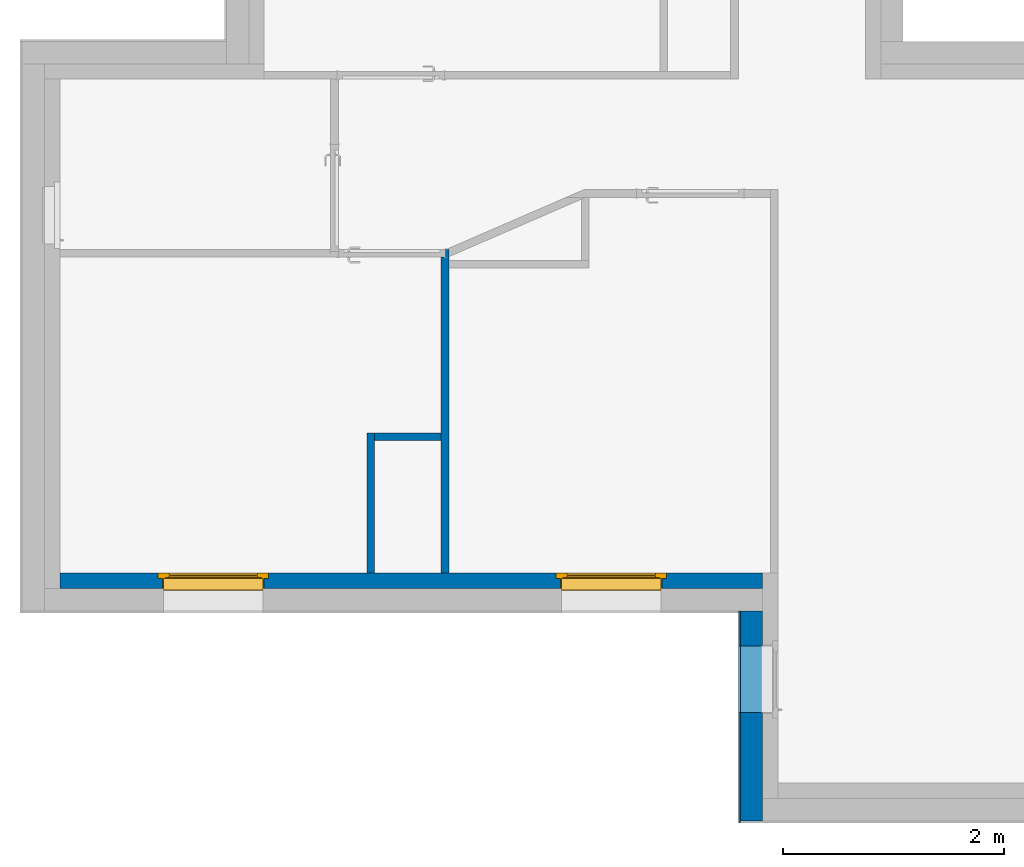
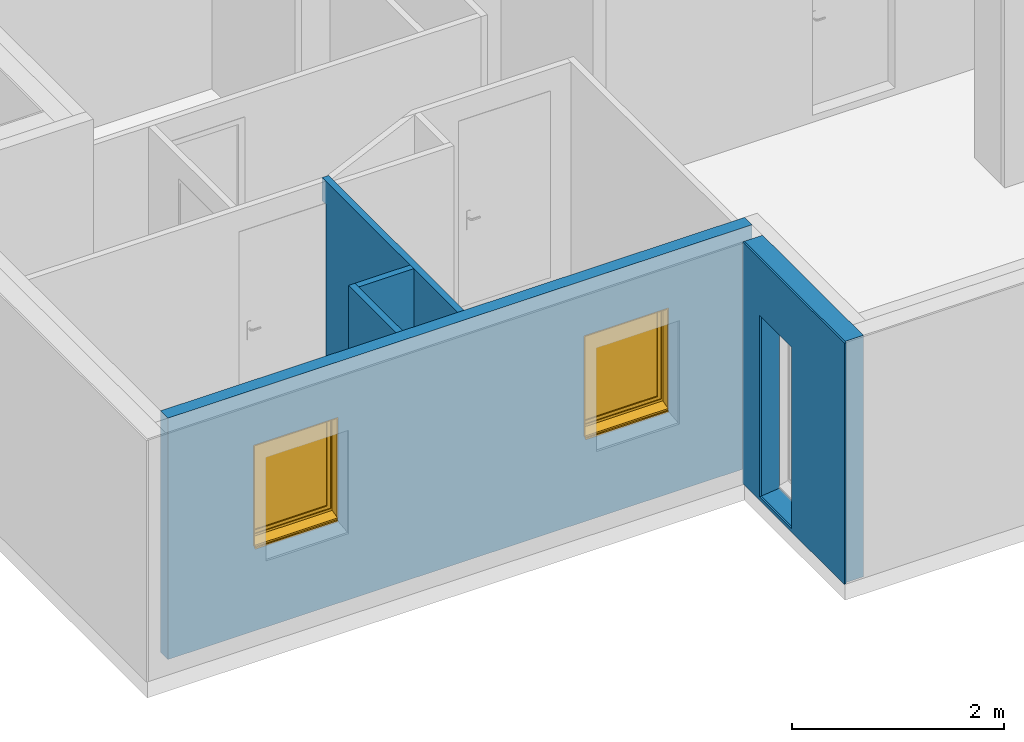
"""IFC2X3 building model written with IfcOpenShell, lengths in centimetres."""

from ifc_helpers import new_model, entity, si_unit, converted_unit, derived_unit, direction, frame, frame_2d, origin, place, context, subcontext, project, spatial, rectangle, extrude, faceted_brep, source, transform, mapped, material, material_list, layer, layer_set, layer_usage, type_object, type_shapes, element, fill, save


model = new_model("IFC2X3")

# Units and contexts
model_context = context("Model", 3, precision=0.001, world=origin(), true_north=direction((6.123031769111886e-17, 1.0)))
body_context = subcontext(model_context, "Body", "Model", "MODEL_VIEW")
ifc_project = project(units=[si_unit("LENGTHUNIT", "METRE", prefix="CENTI"), si_unit("AREAUNIT", "SQUARE_METRE"), si_unit("VOLUMEUNIT", "CUBIC_METRE"), converted_unit("PLANEANGLEUNIT", "DEGREE", entity("IfcRatioMeasure", 0.017453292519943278), si_unit("PLANEANGLEUNIT", "RADIAN"), dimensions=[0, 0, 0, 0, 0, 0, 0]), si_unit("MASSUNIT", "GRAM", prefix="KILO"), derived_unit("MASSDENSITYUNIT", [(si_unit("MASSUNIT", "GRAM", prefix="KILO"), 1), (si_unit("LENGTHUNIT", "METRE"), -3)]), derived_unit("MOMENTOFINERTIAUNIT", [(si_unit("LENGTHUNIT", "METRE"), 4)]), si_unit("TIMEUNIT", "SECOND"), si_unit("FREQUENCYUNIT", "HERTZ"), si_unit("THERMODYNAMICTEMPERATUREUNIT", "DEGREE_CELSIUS"), derived_unit("THERMALTRANSMITTANCEUNIT", [(si_unit("MASSUNIT", "GRAM", prefix="KILO"), 1), (si_unit("THERMODYNAMICTEMPERATUREUNIT", "KELVIN"), -1), (si_unit("TIMEUNIT", "SECOND"), -3)]), derived_unit("VOLUMETRICFLOWRATEUNIT", [(si_unit("LENGTHUNIT", "METRE"), 3), (si_unit("TIMEUNIT", "SECOND"), -1)]), derived_unit("MASSFLOWRATEUNIT", [(si_unit("MASSUNIT", "GRAM", prefix="KILO"), 1), (si_unit("TIMEUNIT", "SECOND"), -1)]), derived_unit("ROTATIONALFREQUENCYUNIT", [(si_unit("TIMEUNIT", "SECOND"), -1)]), si_unit("ELECTRICCURRENTUNIT", "AMPERE"), si_unit("ELECTRICVOLTAGEUNIT", "VOLT"), si_unit("POWERUNIT", "WATT"), si_unit("FORCEUNIT", "NEWTON", prefix="KILO"), si_unit("ILLUMINANCEUNIT", "LUX"), si_unit("LUMINOUSFLUXUNIT", "LUMEN"), si_unit("LUMINOUSINTENSITYUNIT", "CANDELA"), derived_unit("USERDEFINED", [(si_unit("MASSUNIT", "GRAM", prefix="KILO"), -1), (si_unit("LENGTHUNIT", "METRE"), -2), (si_unit("TIMEUNIT", "SECOND"), 3), (si_unit("LUMINOUSFLUXUNIT", "LUMEN"), 1)]), derived_unit("SOUNDPOWERUNIT", [(si_unit("MASSUNIT", "GRAM", prefix="KILO"), 1), (si_unit("LENGTHUNIT", "METRE"), 2), (si_unit("TIMEUNIT", "SECOND"), -3)]), derived_unit("SOUNDPRESSUREUNIT", [(si_unit("MASSUNIT", "GRAM", prefix="KILO"), 1), (si_unit("LENGTHUNIT", "METRE"), -1), (si_unit("TIMEUNIT", "SECOND"), -2)]), derived_unit("LINEARVELOCITYUNIT", [(si_unit("LENGTHUNIT", "METRE"), 1), (si_unit("TIMEUNIT", "SECOND"), -1)]), si_unit("PRESSUREUNIT", "PASCAL"), derived_unit("USERDEFINED", [(si_unit("LENGTHUNIT", "METRE"), -2), (si_unit("MASSUNIT", "GRAM", prefix="KILO"), 1), (si_unit("TIMEUNIT", "SECOND"), -2)]), derived_unit("LINEARFORCEUNIT", [(si_unit("MASSUNIT", "GRAM", prefix="KILO"), 1), (si_unit("LENGTHUNIT", "METRE"), 1), (si_unit("TIMEUNIT", "SECOND"), -2), (si_unit("LENGTHUNIT", "METRE"), -1)]), derived_unit("PLANARFORCEUNIT", [(si_unit("MASSUNIT", "GRAM", prefix="KILO"), 1), (si_unit("LENGTHUNIT", "METRE"), 1), (si_unit("TIMEUNIT", "SECOND"), -2), (si_unit("LENGTHUNIT", "METRE"), -2)])], contexts=[model_context])

# Site, building, storey
site_placement = place(None, origin())
site = spatial("IfcSite", under=ifc_project, at=site_placement, Name="Default", CompositionType="ELEMENT")
building_placement = place(site_placement, origin())
building = spatial("IfcBuilding", under=site, at=building_placement, CompositionType="ELEMENT")
storey_1_placement = place(building_placement, frame((0.0, 0.0, -8.0)))
storey_1 = spatial("IfcBuildingStorey", under=building, at=storey_1_placement, Name="-0.08_Dessus plancher", CompositionType="ELEMENT", Elevation=-8.000000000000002)

# Wall, opening
ifc_material_1 = material(Name="Maçonnerie - Béton")
ifc_layer_1 = layer(ifc_material_1, 20.0)
ifc_layer_set_1 = layer_set([ifc_layer_1], Name="Mur de base:Mur 20")
ifc_layer_usage_1 = layer_usage(ifc_layer_set_1, "AXIS2", "POSITIVE", -10.0)
wall_type_1 = type_object("IfcWallType", Name="Mur de base:Mur 20", PredefinedType="STANDARD", material=ifc_layer_set_1)
wall_1_placement = place(storey_1_placement, frame((-971.8253630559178, 85.60429608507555, 0.0), z_axis=(0.0, 0.0, 1.0), x_axis=(0.0, -1.0, 0.0)))
wall_1 = element("IfcWallStandardCase", 1, at=wall_1_placement, inside=storey_1, type_object=wall_type_1, material=ifc_layer_usage_1, Name="Mur de base:Mur 20", ObjectType="Mur de base:Mur 20", context=body_context, shape_type="SweptSolid", body=[
    extrude(rectangle(XDim=190.00000000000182, YDim=19.999999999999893, at=frame_2d((95.00000000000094, 5.417888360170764e-14), x_axis=(-1.0, 0.0))), origin(), (0.0, 0.0, 1.0), 278.00000000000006),
])
opening_1_placement = place(wall_1_placement, frame((97.0, -33.0, 1.7703094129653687)))
element("IfcOpeningElement", 2, at=opening_1_placement, cuts=wall_1, Name="Mur de base:Mur 20", ObjectType="Opening", context=body_context, shape_type="Brep", body=[
    faceted_brep([(-5.0, 45.0, 6.229690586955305), (-5.0, 43.0, 6.229690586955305), (-5.0, 43.0, 211.22969058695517), (-5.0, 0.0, 211.22969058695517), (-5.0, 0.0, 0.0), (-5.0, 45.0, 4.729690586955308), (-65.0, 100.0, 6.229690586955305), (-65.0, 57.0, 6.229690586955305), (-65.0, 57.0, 211.22969058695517), (-65.0, 100.0, 211.22969058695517), (-5.0, 100.0, 6.229690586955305), (-5.0, 57.0, 6.229690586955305), (0.0, 57.0, 6.229690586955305), (0.0, 52.0, 6.229690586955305), (-4.0, 52.0, 6.229690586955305), (-4.0, 43.0, 6.229690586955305), (-65.0, 45.0, 6.229690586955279), (-65.0, 43.0, 6.229690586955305), (-66.0, 43.0, 6.229690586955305), (-66.0, 52.0, 6.229690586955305), (-70.0, 52.0, 6.229690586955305), (-70.0, 57.0, 6.229690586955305), (-5.0, 100.0, 211.22969058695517), (-65.0, 43.0, 211.22969058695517), (-65.0, 0.0, 211.22969058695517), (-65.0, 0.0, 0.0), (-65.0, 45.0, 4.729690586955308), (0.0, 57.0, 216.22969058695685), (0.0, 52.0, 216.22969058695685), (-70.0, 52.0, 216.22969058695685), (-66.0, 52.0, 212.22969058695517), (-4.0, 52.0, 212.22969058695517), (-4.0, 43.0, 212.22969058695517), (-66.0, 43.0, 212.22969058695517), (-5.0, 57.0, 211.22969058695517), (-70.0, 57.0, 216.22969058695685)], [[[0, 1, 2, 3, 4, 5]], [[6, 7, 8, 9]], [[10, 11, 12, 13, 14, 15, 1, 0, 16, 17, 18, 19, 20, 21, 7, 6]], [[10, 6, 9, 22]], [[3, 2, 23, 24]], [[3, 24, 25, 4]], [[4, 25, 26, 5]], [[5, 26, 16, 0]], [[12, 27, 28, 13]], [[13, 28, 29, 20, 19, 30, 31, 14]], [[14, 31, 32, 15]], [[15, 32, 33, 18, 17, 23, 2, 1]], [[11, 34, 8, 7, 21, 35, 27, 12]], [[27, 35, 29, 28]], [[30, 33, 32, 31]], [[29, 35, 21, 20]], [[19, 18, 33, 30]], [[9, 8, 34, 22]], [[24, 23, 17, 16, 26, 25]], [[22, 34, 11, 10]]]),
])

ifc_material_2 = material(Name="Maçonnerie - Enduit")
ifc_layer_2 = layer(ifc_material_2, 2.0)
ifc_layer_set_2 = layer_set([ifc_layer_2], Name="Mur de base:Enduit 2")
ifc_layer_usage_2 = layer_usage(ifc_layer_set_2, "AXIS2", "POSITIVE", -1.0)
wall_type_2 = type_object("IfcWallType", Name="Mur de base:Enduit 2", PredefinedType="STANDARD", material=ifc_layer_set_2)
wall_2_placement = place(storey_1_placement, frame((-982.8253630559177, 85.60429608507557, 0.0), z_axis=(0.0, 0.0, 1.0), x_axis=(0.0, -1.0, 0.0)))
wall_2 = element("IfcWallStandardCase", 3, at=wall_2_placement, inside=storey_1, type_object=wall_type_2, material=ifc_layer_usage_2, Name="Mur de base:Enduit 2", ObjectType="Mur de base:Enduit 2", context=body_context, shape_type="SweptSolid", body=[
    extrude(rectangle(XDim=192.00000000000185, YDim=1.9999999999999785, at=frame_2d((96.00000000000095, 1.1657341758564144e-15), x_axis=(-1.0, 0.0))), origin(), (0.0, 0.0, 1.0), 278.00000000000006),
])
opening_2_placement = place(wall_2_placement, frame((97.0, -22.0, 1.7703094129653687)))
element("IfcOpeningElement", 4, at=opening_2_placement, cuts=wall_2, Name="Mur de base:Enduit 2", ObjectType="Opening", context=body_context, shape_type="Brep", body=[
    faceted_brep([(-5.0, 45.0, 6.229690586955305), (-5.0, 43.0, 6.229690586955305), (-5.0, 43.0, 211.22969058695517), (-5.0, 0.0, 211.22969058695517), (-5.0, 0.0, 0.0), (-5.0, 45.0, 4.729690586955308), (-65.0, 100.0, 6.229690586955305), (-65.0, 57.0, 6.229690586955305), (-65.0, 57.0, 211.22969058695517), (-65.0, 100.0, 211.22969058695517), (-5.0, 100.0, 6.229690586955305), (-5.0, 57.0, 6.229690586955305), (0.0, 57.0, 6.229690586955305), (0.0, 52.0, 6.229690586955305), (-4.0, 52.0, 6.229690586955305), (-4.0, 43.0, 6.229690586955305), (-65.0, 45.0, 6.229690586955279), (-65.0, 43.0, 6.229690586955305), (-66.0, 43.0, 6.229690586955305), (-66.0, 52.0, 6.229690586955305), (-70.0, 52.0, 6.229690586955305), (-70.0, 57.0, 6.229690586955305), (-5.0, 100.0, 211.22969058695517), (-65.0, 43.0, 211.22969058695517), (-65.0, 0.0, 211.22969058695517), (-65.0, 0.0, 0.0), (-65.0, 45.0, 4.729690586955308), (0.0, 57.0, 216.22969058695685), (0.0, 52.0, 216.22969058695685), (-70.0, 52.0, 216.22969058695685), (-66.0, 52.0, 212.22969058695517), (-4.0, 52.0, 212.22969058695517), (-4.0, 43.0, 212.22969058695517), (-66.0, 43.0, 212.22969058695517), (-5.0, 57.0, 211.22969058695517), (-70.0, 57.0, 216.22969058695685)], [[[0, 1, 2, 3, 4, 5]], [[6, 7, 8, 9]], [[10, 11, 12, 13, 14, 15, 1, 0, 16, 17, 18, 19, 20, 21, 7, 6]], [[10, 6, 9, 22]], [[3, 2, 23, 24]], [[3, 24, 25, 4]], [[4, 25, 26, 5]], [[5, 26, 16, 0]], [[12, 27, 28, 13]], [[13, 28, 29, 20, 19, 30, 31, 14]], [[14, 31, 32, 15]], [[15, 32, 33, 18, 17, 23, 2, 1]], [[11, 34, 8, 7, 21, 35, 27, 12]], [[27, 35, 29, 28]], [[30, 33, 32, 31]], [[29, 35, 21, 20]], [[19, 18, 33, 30]], [[9, 8, 34, 22]], [[24, 23, 17, 16, 26, 25]], [[22, 34, 11, 10]]]),
])

# Wall, openings
ifc_material_3 = material(Name="Isolant rigide")
ifc_layer_3 = layer(ifc_material_3, 14.0)
ifc_layer_set_3 = layer_set([ifc_layer_3], Name="Mur de base:Doublage 14")
ifc_layer_usage_3 = layer_usage(ifc_layer_set_3, "AXIS2", "NEGATIVE", 7.0)
wall_type_3 = type_object("IfcWallType", Name="Mur de base:Doublage 14", PredefinedType="STANDARD", material=ifc_layer_set_3)
wall_3_placement = place(storey_1_placement, frame((-961.8253630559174, 112.60429608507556, 0.0), z_axis=(0.0, 0.0, 1.0), x_axis=(-1.0, 0.0, 0.0)))
wall_3 = element("IfcWallStandardCase", 5, at=wall_3_placement, inside=storey_1, type_object=wall_type_3, material=ifc_layer_usage_3, Name="Mur de base:Doublage 14", ObjectType="Mur de base:Doublage 14", context=body_context, shape_type="SweptSolid", body=[
    extrude(rectangle(XDim=636.0, YDim=13.999999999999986, at=frame_2d((318.0, 1.1102230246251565e-14), x_axis=(-1.0, 0.0))), origin(), (0.0, 0.0, 1.0), 278.00000000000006),
])
opening_3_placement = place(wall_3_placement, frame((547.0, 50.0, 91.77030941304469), z_axis=(0.0, 0.0, 1.0), x_axis=(-1.0, 0.0, 0.0)))
opening_3 = element("IfcOpeningElement", 6, at=opening_3_placement, cuts=wall_3, Name="Mur de base:Doublage 14", ObjectType="Opening", context=body_context, shape_type="Brep", body=[
    faceted_brep([(95.0, 45.0, 6.2296905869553), (95.0, 43.0, 6.2296905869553), (95.0, 43.0, 121.22969058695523), (95.0, 0.0, 121.22969058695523), (95.0, 0.0, 0.0), (95.0, 45.0, 4.729690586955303), (5.0, 100.0, 6.2296905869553), (5.0, 57.0, 6.2296905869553), (5.0, 57.0, 121.22969058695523), (5.0, 100.0, 121.22969058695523), (95.0, 100.0, 6.2296905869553), (95.0, 57.0, 6.2296905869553), (100.0, 57.0, 6.2296905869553), (100.0, 52.0, 6.2296905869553), (96.0, 52.0, 6.2296905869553), (96.0, 43.0, 6.2296905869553), (5.0, 45.0, 6.2296905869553), (5.0, 43.0, 6.2296905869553), (4.0, 43.0, 6.2296905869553), (4.0, 52.0, 6.2296905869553), (0.0, 52.0, 6.2296905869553), (0.0, 57.0, 6.2296905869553), (95.0, 100.0, 121.22969058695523), (5.0, 43.0, 121.22969058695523), (5.0, 0.0, 121.22969058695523), (5.0, 0.0, 0.0), (5.0, 45.0, 4.729690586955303), (100.0, 57.0, 126.2296905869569), (100.0, 52.0, 126.2296905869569), (0.0, 52.0, 126.2296905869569), (4.0, 52.0, 122.22969058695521), (96.0, 52.0, 122.22969058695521), (96.0, 43.0, 122.22969058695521), (4.0, 43.0, 122.22969058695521), (95.0, 57.0, 121.22969058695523), (0.0, 57.0, 126.2296905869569)], [[[0, 1, 2, 3, 4, 5]], [[6, 7, 8, 9]], [[10, 11, 12, 13, 14, 15, 1, 0, 16, 17, 18, 19, 20, 21, 7, 6]], [[10, 6, 9, 22]], [[3, 2, 23, 24]], [[3, 24, 25, 4]], [[4, 25, 26, 5]], [[5, 26, 16, 0]], [[12, 27, 28, 13]], [[13, 28, 29, 20, 19, 30, 31, 14]], [[14, 31, 32, 15]], [[15, 32, 33, 18, 17, 23, 2, 1]], [[11, 34, 8, 7, 21, 35, 27, 12]], [[27, 35, 29, 28]], [[30, 33, 32, 31]], [[29, 35, 21, 20]], [[19, 18, 33, 30]], [[9, 8, 34, 22]], [[24, 23, 17, 16, 26, 25]], [[22, 34, 11, 10]]]),
])
opening_4_placement = place(wall_3_placement, frame((187.0, 50.0, 91.77030941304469), z_axis=(0.0, 0.0, 1.0), x_axis=(-1.0, 0.0, 0.0)))
opening_4 = element("IfcOpeningElement", 7, at=opening_4_placement, cuts=wall_3, Name="Mur de base:Doublage 14", ObjectType="Opening", context=body_context, shape_type="Brep", body=[
    faceted_brep([(95.0, 45.0, 6.2296905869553), (95.0, 43.0, 6.2296905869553), (95.0, 43.0, 121.22969058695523), (95.0, 0.0, 121.22969058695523), (95.0, 0.0, 0.0), (95.0, 45.0, 4.729690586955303), (5.0, 100.0, 6.2296905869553), (5.0, 57.0, 6.2296905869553), (5.0, 57.0, 121.22969058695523), (5.0, 100.0, 121.22969058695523), (95.0, 100.0, 6.2296905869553), (95.0, 57.0, 6.2296905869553), (100.0, 57.0, 6.2296905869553), (100.0, 52.0, 6.2296905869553), (96.0, 52.0, 6.2296905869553), (96.0, 43.0, 6.2296905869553), (5.0, 45.0, 6.2296905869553), (5.0, 43.0, 6.2296905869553), (4.0, 43.0, 6.2296905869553), (4.0, 52.0, 6.2296905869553), (0.0, 52.0, 6.2296905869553), (0.0, 57.0, 6.2296905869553), (95.0, 100.0, 121.22969058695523), (5.0, 43.0, 121.22969058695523), (5.0, 0.0, 121.22969058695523), (5.0, 0.0, 0.0), (5.0, 45.0, 4.729690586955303), (100.0, 57.0, 126.2296905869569), (100.0, 52.0, 126.2296905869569), (0.0, 52.0, 126.2296905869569), (4.0, 52.0, 122.22969058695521), (96.0, 52.0, 122.22969058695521), (96.0, 43.0, 122.22969058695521), (4.0, 43.0, 122.22969058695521), (95.0, 57.0, 121.22969058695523), (0.0, 57.0, 126.2296905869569)], [[[0, 1, 2, 3, 4, 5]], [[6, 7, 8, 9]], [[10, 11, 12, 13, 14, 15, 1, 0, 16, 17, 18, 19, 20, 21, 7, 6]], [[10, 6, 9, 22]], [[3, 2, 23, 24]], [[3, 24, 25, 4]], [[4, 25, 26, 5]], [[5, 26, 16, 0]], [[12, 27, 28, 13]], [[13, 28, 29, 20, 19, 30, 31, 14]], [[14, 31, 32, 15]], [[15, 32, 33, 18, 17, 23, 2, 1]], [[11, 34, 8, 7, 21, 35, 27, 12]], [[27, 35, 29, 28]], [[30, 33, 32, 31]], [[29, 35, 21, 20]], [[19, 18, 33, 30]], [[9, 8, 34, 22]], [[24, 23, 17, 16, 26, 25]], [[22, 34, 11, 10]]]),
])

# Storey
storey_2_placement = place(building_placement, origin())
storey_2 = spatial("IfcBuildingStorey", under=building, at=storey_2_placement, Name="1_Rez-de-chaussée", CompositionType="ELEMENT", Elevation=-7.93413063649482e-11)

# Window
ifc_material_4 = material(Name="Fenêtre - Poignée")
ifc_material_5 = material(Name="Fenêtre - Appui")
ifc_material_6 = material(Name="Fenêtre - Vitrage")
ifc_material_7 = material(Name="Fenêtre - Cadre")
ifc_material_list_1 = material_list([ifc_material_4, ifc_material_5, ifc_material_6, ifc_material_7])
ifc_material_list_2 = material_list([ifc_material_4, ifc_material_4, ifc_material_5, ifc_material_5, ifc_material_5, ifc_material_6, ifc_material_7, ifc_material_7, ifc_material_7])
window_style = type_object("IfcWindowStyle", Name="1 Vantail - Droit:0.90 m x 1.15 m", ConstructionType="NOTDEFINED", OperationType="NOTDEFINED", ParameterTakesPrecedence=False, Sizeable=False, material=ifc_material_list_2)
shared_shape = source(origin(), body_context, "Body", "Brep", [
    faceted_brep([(8.064600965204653, -57.600000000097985, 68.43308351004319), (8.203392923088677, -57.600000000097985, 68.29429155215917), (8.203392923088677, -57.600000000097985, 67.16292070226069), (8.066769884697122, -57.600000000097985, 67.02629766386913), (6.933230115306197, -57.600000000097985, 67.02629766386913), (6.796607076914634, -57.600000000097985, 67.16292070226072), (6.796607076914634, -57.600000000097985, 68.29429155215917), (6.935399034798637, -57.600000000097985, 68.43308351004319), (8.064600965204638, -58.891354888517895, 68.43308351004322), (8.203392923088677, -58.833865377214, 68.29429155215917), (8.203392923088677, -60.16460096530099, 66.9635559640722), (8.203392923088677, -60.16460096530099, 58.22969058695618), (8.203392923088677, -59.03323011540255, 58.22969058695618), (8.203392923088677, -59.033230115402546, 66.49492681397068), (8.203392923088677, -58.36523622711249, 67.16292070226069), (8.066769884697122, -58.308645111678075, 67.02629766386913), (6.933230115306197, -58.308645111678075, 67.02629766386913), (6.796607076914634, -58.3652362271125, 67.16292070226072), (6.796607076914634, -59.03323011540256, 66.49492681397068), (6.796607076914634, -59.03323011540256, 58.22969058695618), (6.796607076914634, -60.164600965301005, 58.22969058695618), (6.796607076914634, -60.164600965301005, 66.9635559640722), (6.796607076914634, -58.833865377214, 68.29429155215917), (6.935399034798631, -58.89135488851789, 68.43308351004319), (8.064600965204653, -60.30339292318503, 67.02104547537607), (8.066769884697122, -58.896607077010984, 66.43833569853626), (6.933230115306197, -58.89660707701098, 66.43833569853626), (6.935399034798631, -60.30339292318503, 67.02104547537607), (8.064600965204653, -60.30339292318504, 58.22969058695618), (6.935399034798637, -60.30339292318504, 58.22969058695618), (6.933230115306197, -58.896607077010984, 58.22969058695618), (8.066769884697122, -58.896607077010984, 58.22969058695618)], [[[0, 1, 2, 3, 4, 5, 6, 7]], [[1, 0, 8, 9]], [[2, 1, 9, 10, 11, 12, 13, 14]], [[3, 2, 14, 15]], [[4, 3, 15, 16]], [[5, 4, 16, 17]], [[6, 5, 17, 18, 19, 20, 21, 22]], [[7, 6, 22, 23]], [[0, 7, 23, 8]], [[9, 8, 24, 10]], [[15, 14, 13, 25]], [[16, 15, 25, 26]], [[17, 16, 26, 18]], [[23, 22, 21, 27]], [[8, 23, 27, 24]], [[28, 29, 20, 19, 30, 31, 12, 11]], [[10, 24, 28, 11]], [[25, 13, 12, 31]], [[26, 25, 31, 30]], [[18, 26, 30, 19]], [[27, 21, 20, 29]], [[24, 27, 29, 28]]]),
    faceted_brep([(8.200000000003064, -57.60000000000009, 70.22969058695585), (6.80000000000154, -57.60000000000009, 70.22969058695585), (6.300000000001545, -57.60000000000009, 69.72969058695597), (6.300000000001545, -57.60000000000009, 62.72969058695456), (6.8000000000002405, -57.60000000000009, 62.22969058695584), (8.200000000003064, -57.60000000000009, 62.22969058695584), (8.70000000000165, -57.60000000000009, 62.72969058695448), (8.70000000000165, -57.60000000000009, 69.72969058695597), (8.200000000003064, -57.0, 70.22969058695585), (8.70000000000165, -57.0, 69.72969058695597), (8.70000000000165, -57.0, 62.72969058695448), (8.200000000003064, -57.0, 62.22969058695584), (6.8000000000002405, -57.0, 62.22969058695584), (6.300000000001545, -57.0, 62.72969058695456), (6.300000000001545, -57.0, 69.72969058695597), (6.80000000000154, -57.0, 70.22969058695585)], [[[0, 1, 2, 3, 4, 5, 6, 7]], [[8, 9, 10, 11, 12, 13, 14, 15]], [[1, 0, 8, 15]], [[2, 1, 15, 14]], [[3, 2, 14, 13]], [[4, 3, 13, 12]], [[5, 4, 12, 11]], [[6, 5, 11, 10]], [[7, 6, 10, 9]], [[0, 7, 9, 8]]]),
    faceted_brep([(95.0, -41.49999999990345, 4.887346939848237), (95.0, -44.499999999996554, 5.202659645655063), (95.0, -44.499999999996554, 6.229690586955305), (95.0, -45.0, 6.229690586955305), (95.0, -45.0, 4.729690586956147), (95.0, -42.0, 4.4143778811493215), (95.0, -42.0, 3.384327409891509), (95.0, -41.49999999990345, 3.331775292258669), (5.0, -41.49999999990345, 4.887346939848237), (5.0, -41.49999999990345, 3.331775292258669), (5.0, -42.0, 3.384327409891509), (5.0, -42.0, 4.4143778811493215), (5.0, -45.0, 4.729690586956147), (5.0, -45.0, 6.229690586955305), (5.0, -44.49999999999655, 6.229690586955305), (5.0, -44.49999999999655, 5.202659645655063)], [[[0, 1, 2, 3, 4, 5, 6, 7]], [[8, 9, 10, 11, 12, 13, 14, 15]], [[1, 0, 8, 15]], [[2, 1, 15, 14]], [[3, 2, 14, 13]], [[4, 3, 13, 12]], [[5, 4, 12, 11]], [[6, 5, 11, 10]], [[7, 6, 10, 9]], [[0, 7, 9, 8]]]),
    faceted_brep([(5.0, -41.49999999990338, 5.029939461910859), (5.0, -41.49999999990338, 4.887346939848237), (5.0, -44.499999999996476, 5.202659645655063), (5.0, -44.499999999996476, 5.7054137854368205), (5.0, -41.85818861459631, 5.427748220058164), (5.0, -41.60274206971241, 5.2975917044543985), (5.500000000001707, -44.49999999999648, 5.7054137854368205), (5.500000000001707, -44.49999999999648, 5.202659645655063), (5.500000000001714, -41.49999999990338, 4.887346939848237), (5.500000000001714, -41.49999999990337, 5.029939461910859), (5.500000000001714, -41.60274206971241, 5.2975917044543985), (5.500000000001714, -41.85818861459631, 5.427748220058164)], [[[0, 1, 2, 3, 4, 5]], [[6, 7, 8, 9, 10, 11]], [[2, 1, 8, 7]], [[3, 2, 7, 6]], [[4, 3, 6, 11]], [[4, 11, 10, 5]], [[10, 9, 0, 5]], [[1, 0, 9, 8]]]),
    faceted_brep([(94.5000000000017, -41.49999999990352, 5.029939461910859), (94.5000000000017, -41.49999999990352, 4.887346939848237), (94.50000000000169, -44.499999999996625, 5.202659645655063), (94.50000000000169, -44.499999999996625, 5.7054137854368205), (94.5000000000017, -41.85818861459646, 5.427748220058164), (94.5000000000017, -41.60274206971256, 5.2975917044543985), (95.0, -44.499999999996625, 5.7054137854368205), (95.0, -44.499999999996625, 5.202659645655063), (95.0, -41.49999999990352, 4.887346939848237), (95.0, -41.499999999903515, 5.029939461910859), (95.0, -41.60274206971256, 5.2975917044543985), (95.0, -41.85818861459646, 5.427748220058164)], [[[0, 1, 2, 3, 4, 5]], [[6, 7, 8, 9, 10, 11]], [[2, 1, 8, 7]], [[3, 2, 7, 6]], [[4, 3, 6, 11]], [[4, 11, 10, 5]], [[10, 9, 0, 5]], [[1, 0, 9, 8]]]),
    faceted_brep([(10.0, -54.400000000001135, 16.229690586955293), (10.0, -54.400000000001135, 116.22969058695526), (90.0, -54.400000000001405, 116.22969058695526), (90.0, -54.400000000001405, 16.229690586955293), (10.0, -55.60000000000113, 16.229690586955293), (10.0, -55.60000000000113, 116.22969058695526), (90.0, -55.60000000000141, 116.22969058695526), (90.0, -55.60000000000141, 16.229690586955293)], [[[0, 1, 2, 3]], [[1, 0, 4, 5]], [[3, 2, 6, 7]], [[0, 3, 7, 4]], [[4, 7, 6, 5]], [[2, 1, 5, 6]]]),
    faceted_brep([(10.0, -53.0, 116.22969058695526), (10.0, -57.0, 116.22969058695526), (10.0, -57.0, 16.229690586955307), (10.0, -53.0, 16.22969058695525), (90.0, -57.0, 16.229690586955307), (90.0, -53.0, 16.229690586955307), (90.0, -57.0, 116.22969058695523), (95.0, -57.0, 11.229690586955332), (95.0, -57.0, 121.2296905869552), (5.0, -57.0, 121.22969058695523), (5.0, -57.0, 11.229690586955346), (90.0, -53.0, 116.22969058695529), (5.0, -53.0, 11.229690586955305), (5.0, -53.0, 121.22969058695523), (95.0, -53.0, 121.22969058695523), (95.0, -53.0, 11.229690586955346)], [[[0, 1, 2, 3]], [[3, 2, 4, 5]], [[2, 1, 6, 4], [7, 8, 9, 10]], [[5, 4, 6, 11]], [[5, 11, 0, 3], [12, 13, 14, 15]], [[9, 13, 12, 10]], [[10, 12, 15, 7]], [[7, 15, 14, 8]], [[11, 6, 1, 0]], [[8, 14, 13, 9]]], outer=[[True], [True], [False, True], [True], [False, True], [True], [True], [True], [True], [True]]),
    faceted_brep([(0.0, -57.0, 6.229690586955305), (0.0, -52.0, 6.229690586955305), (5.0, -52.0, 6.229690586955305), (5.0, -43.0, 6.229690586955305), (95.0, -43.0, 6.229690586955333), (95.0, -52.0, 6.229690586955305), (100.0, -52.0, 6.229690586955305), (100.0, -57.0, 6.229690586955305), (0.0, -57.0, 126.22969058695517), (0.0, -52.0, 126.22969058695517), (100.0, -52.0, 126.22969058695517), (95.0, -52.0, 10.167304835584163), (5.0, -52.0, 10.167304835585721), (6.500000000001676, -52.0, 119.72969058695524), (6.500000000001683, -52.0, 12.729690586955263), (93.50000000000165, -52.0, 12.729690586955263), (93.50000000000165, -52.0, 119.72969058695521), (5.0, -42.0, 7.48781291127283), (5.0, -42.0, 5.729690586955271), (5.0, -43.0, 5.729690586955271), (95.0, -43.0, 5.729690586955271), (95.0, -42.0, 5.729690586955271), (95.0, -42.0, 7.48781291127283), (100.0, -57.0, 126.22969058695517), (95.0, -57.0, 121.22969058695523), (95.0, -57.0, 11.229690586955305), (5.0, -57.0, 11.229690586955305), (5.0, -57.0, 121.22969058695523), (6.500000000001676, -53.0, 119.72969058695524), (6.500000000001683, -53.0, 12.729690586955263), (93.50000000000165, -53.0, 12.729690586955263), (93.50000000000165, -53.0, 119.72969058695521), (95.0, -53.0, 121.22969058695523), (5.0, -53.0, 121.22969058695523), (5.0, -53.0, 11.229690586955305), (95.0, -53.0, 11.229690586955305)], [[[0, 1, 2, 3, 4, 5, 6, 7]], [[1, 0, 8, 9]], [[1, 9, 10, 6, 5, 11, 12, 2], [13, 14, 15, 16]], [[12, 17, 18, 19, 3, 2]], [[3, 19, 20, 4]], [[4, 20, 21, 22, 11, 5]], [[6, 10, 23, 7]], [[0, 7, 23, 8], [24, 25, 26, 27]], [[13, 28, 29, 14]], [[29, 30, 15, 14]], [[31, 16, 15, 30]], [[17, 12, 11, 22]], [[32, 33, 34, 35], [28, 31, 30, 29]], [[34, 33, 27, 26]], [[26, 25, 35, 34]], [[24, 32, 35, 25]], [[18, 17, 22, 21]], [[19, 18, 21, 20]], [[13, 16, 31, 28]], [[33, 32, 24, 27]], [[10, 9, 8, 23]]]),
    faceted_brep([(5.0, -43.0, 6.229690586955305), (5.0, -52.0, 6.229690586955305), (4.0, -52.0, 6.229690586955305), (4.0, -43.0, 6.229690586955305), (5.0, -43.0, 121.22969058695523), (5.0, -52.0, 121.22969058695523), (95.0, -52.0, 121.22969058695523), (95.0, -52.0, 6.229690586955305), (96.0, -52.0, 6.229690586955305), (96.0, -52.0, 122.22969058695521), (4.0, -52.0, 122.22969058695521), (4.0, -43.0, 122.22969058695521), (96.0, -43.0, 122.22969058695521), (96.0, -43.0, 6.229690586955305), (95.0, -43.0, 6.229690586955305), (95.0, -43.0, 121.22969058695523)], [[[0, 1, 2, 3]], [[1, 0, 4, 5]], [[2, 1, 5, 6, 7, 8, 9, 10]], [[3, 2, 10, 11]], [[0, 3, 11, 12, 13, 14, 15, 4]], [[6, 15, 14, 7]], [[14, 13, 8, 7]], [[12, 9, 8, 13]], [[5, 4, 15, 6]], [[11, 10, 9, 12]]]),
])
type_shapes(window_style, [shared_shape])
window_1_placement = place(opening_3_placement, frame((100.0, 0.0, 0.0), z_axis=(0.0, 0.0, 1.0), x_axis=(-1.0, 0.0, 0.0)))
window_1 = element("IfcWindow", 8, at=window_1_placement, inside=storey_2, type_object=window_style, material=ifc_material_list_1, Name="1 Vantail - Droit:0.90 m x 1.15 m", ObjectType="1 Vantail - Droit:0.90 m x 1.15 m", OverallHeight=128.00000000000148, OverallWidth=100.00000000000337, context=body_context, shape_type="MappedRepresentation", body=[
    mapped(shared_shape, transform((0.0, 0.0, 0.0), scale=1.0)),
])

fill(opening_3, window_1)

ifc_material_list_3 = material_list([ifc_material_4, ifc_material_5, ifc_material_6, ifc_material_7])
window_2_placement = place(opening_4_placement, frame((100.0, 0.0, 0.0), z_axis=(0.0, 0.0, 1.0), x_axis=(-1.0, 0.0, 0.0)))
window_2 = element("IfcWindow", 9, at=window_2_placement, inside=storey_2, type_object=window_style, material=ifc_material_list_3, Name="1 Vantail - Droit:0.90 m x 1.15 m", ObjectType="1 Vantail - Droit:0.90 m x 1.15 m", OverallHeight=128.00000000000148, OverallWidth=100.00000000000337, context=body_context, shape_type="MappedRepresentation", body=[
    mapped(shared_shape, transform((0.0, 0.0, 0.0), scale=1.0)),
])

fill(opening_4, window_2)

# Walls
ifc_material_8 = material(Name="Mur par défaut")
ifc_layer_4 = layer(ifc_material_8, 7.0)
ifc_layer_set_4 = layer_set([ifc_layer_4], Name="Mur de base:Cloison 7cm")
ifc_layer_usage_4 = layer_usage(ifc_layer_set_4, "AXIS2", "NEGATIVE", 3.4999999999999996)
wall_type_4 = type_object("IfcWallType", Name="Mur de base:Cloison 7cm", PredefinedType="STANDARD", material=ifc_layer_set_4)
wall_4_placement = place(storey_1_placement, frame((-1316.3253630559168, 119.60429608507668, 0.0), z_axis=(0.0, 0.0, 1.0), x_axis=(0.0, 1.0, 0.0)))
element("IfcWallStandardCase", 10, at=wall_4_placement, inside=storey_1, type_object=wall_type_4, material=ifc_layer_usage_4, Name="Mur de base:Cloison 7cm", ObjectType="Mur de base:Cloison 7cm", context=body_context, shape_type="SweptSolid", body=[
    extrude(rectangle(XDim=127.00000000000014, YDim=7.00000000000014, at=frame_2d((63.50000000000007, 4.218847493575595e-14), x_axis=(-1.0, 0.0))), origin(), (0.0, 0.0, 1.0), 248.00000000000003),
])
ifc_layer_usage_5 = layer_usage(ifc_layer_set_4, "AXIS2", "NEGATIVE", 3.4999999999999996)
wall_5_placement = place(storey_1_placement, frame((-1312.8253630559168, 243.1042960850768, 0.0)))
element("IfcWallStandardCase", 11, at=wall_5_placement, inside=storey_1, type_object=wall_type_4, material=ifc_layer_usage_5, Name="Mur de base:Cloison 7cm", ObjectType="Mur de base:Cloison 7cm", context=body_context, shape_type="SweptSolid", body=[
    extrude(rectangle(XDim=59.99999999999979, YDim=6.999999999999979, at=frame_2d((29.999999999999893, 1.2434497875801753e-14), x_axis=(-1.0, 0.0))), origin(), (0.0, 0.0, 1.0), 248.00000000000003),
])

# Wall, opening
ifc_layer_usage_6 = layer_usage(ifc_layer_set_4, "AXIS2", "NEGATIVE", 3.4999999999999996)
wall_6_placement = place(storey_1_placement, frame((-1249.3253630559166, 412.6042960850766, 0.0), z_axis=(0.0, 0.0, 1.0), x_axis=(0.0, -1.0, 0.0)))
wall_6 = element("IfcWallStandardCase", 12, at=wall_6_placement, inside=storey_1, type_object=wall_type_4, material=ifc_layer_usage_6, Name="Mur de base:Cloison 7cm", ObjectType="Mur de base:Cloison 7cm", context=body_context, shape_type="SweptSolid", body=[
    extrude(rectangle(XDim=293.00000000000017, YDim=6.9999999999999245, at=frame_2d((146.5000000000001, 1.361133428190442e-13), x_axis=(-1.0, 0.0))), origin(), (0.0, 0.0, 1.0), 248.00000000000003),
])
opening_5_placement = place(wall_6_placement, origin())
element("IfcOpeningElement", 13, at=opening_5_placement, cuts=wall_6, Name="Mur de base:Cloison 7cm", ObjectType="Opening", context=body_context, shape_type="SweptSolid", body=[
    extrude(rectangle(XDim=213.50000000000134, YDim=6.999999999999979, at=frame_2d((2.708944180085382e-14, 0.0), x_axis=(0.0, 1.0))), frame((3.4999999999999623, -96.49999999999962, 114.74999999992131), z_axis=(0.0, 1.0, 0.0), x_axis=(-1.0, 0.0, 0.0)), (0.0, 0.0, 1.0), 96.9999999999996),
])

save(model, "model.ifc")
